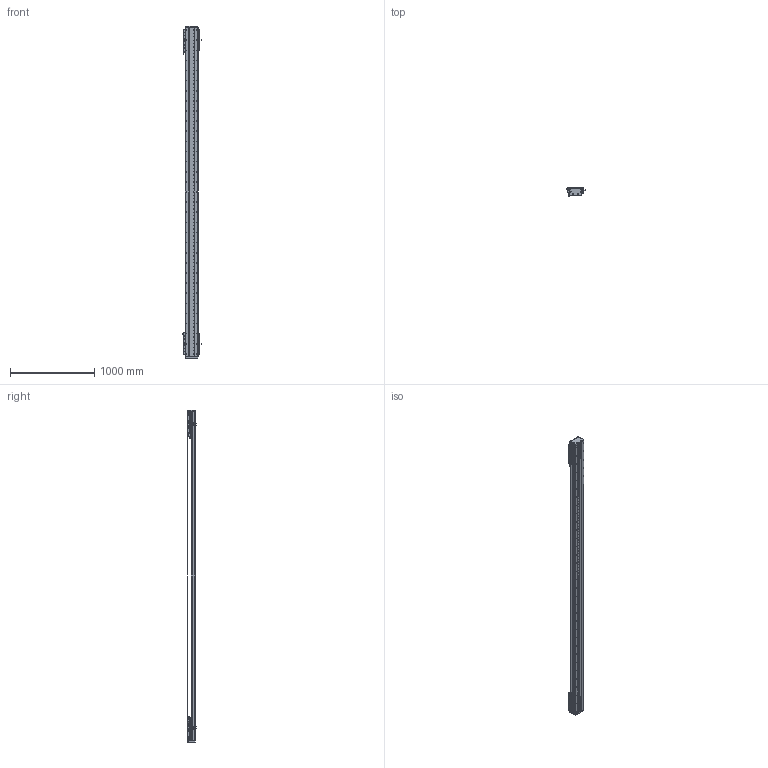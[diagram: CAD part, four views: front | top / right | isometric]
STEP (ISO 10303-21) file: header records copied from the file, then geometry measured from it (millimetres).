
FILE_DESCRIPTION (( 'STEP AP203' ), '1' );
FILE_NAME ('DA-C145-2-C3-T3320-C010-0.2 眻盄萇儂.STEP', '2025-08-14T00:41:13', ( '' ), ( '' ), 'SwSTEP 2.0', 'SolidWorks 2019', '' );
FILE_SCHEMA (( 'CONFIG_CONTROL_DESIGN' ));
Length unit declared in the file: millimetre
Products named in the file (38): 复件 DA146 钢带拉块^复件 CU145 钢带组件_DA-C145-2-C3-T-C010-0.2; DKW-GYP-ZJ-00 笢潔嫖萇覜茼え; 葩璃 XD-U-02L 棠掑喜^DA-C145-2-C3-T-C010-0.2; 葩璃 DA95-GT-T-00^IU-CU145-L 菁釱絳寢; DA-C145-2-C3-T3320-C010-0.2 眻盄萇儂; CU145-W-00 珨极趙賑雄怢啣; 复件 内六角平端紧定螺钉 GB.T77-2000 M5×10^CU145-W 滚珠滑台; 葩璃 DA145-C3-DP-A-00 菜えA^CU145-W 幗紩賑怢; 复件 DA145-DG 钢带端盖^复件 CU145 钢带组件_DA-C145-2-C3-T-C010-0.2; 复件 DA95-DB-00  挡板^CU145-W 滚珠滑台; 葩璃 CKMA01-W060-TRL^DA-C145-2-C3-T-C010-0.2; 复件 DA145-C3-YB-B-00 压板B^CU145-W 滚珠滑台; 葩璃 DA145-C3-DP-B-00 菜えB^CU145-W 幗紩賑怢; TAY01-M8; CU145-W 幗紩賑怢-1; 葩璃 CU145 詩湍郪璃^DA-C145-2-C3-T-C010-0.2; 葩璃 PM-T45^DA-C145-2-C3-T-C010-0.2; 复件 DA146 钢带垫块^复件 CU145 钢带组件_DA-C145-2-C3-T-C010-0.2; CU145-W-00 珨极趙賑雄怢啣-1; 复件 DA95-HK-GT-00 滑块钢轨^CU145-W-00 一体化滑动台板; IU-CU145-L-00 菁釱(L3900); 葩璃 DA95-HXJ-00 遣喳砎蝶^DA-C145-2-C3-T-C010-0.2; 葩璃 鞠褒情蹟譫 M3^DA-C145-2-C3-T-C010-0.2; 复件 DA145 钢带^复件 CU145 钢带组件_DA-C145-2-C3-T-C010-0.2; CU145-W 幗紩賑怢; 复件 半圆头内六角螺钉 M3×6^CU145-W 滚珠滑台; IU-CU145-L 菁釱絳寢; 葩璃 PM-Y65^DA-C145-2-C3-T-C010-0.2; 复件 纯铜油杯 6x6mm^CU145-W 滚珠滑台; 复件 DA145-C3-DK-00 挡块^CU145-W 滚珠滑台; 葩璃 DMA-010-0.2 黍杅芛^DA-C145-2-C3-T-C010-0.2; 复件 DA145-GYP-00 光电感应片^DA-C145-2-C3-T-C010-0.2; DKW168-HXJ-ZJ-00 笢潔滅袉砎蝶; 复件 DA95-MFP-01 密封片^CU145-W 滚珠滑台; 葩璃 CKM03-W060-C1C2-TP-0.2^DA-C145-2-C3-T-C010-0.2; DKW-KGZ-ZJ-00 中间光电开关支架; 66245-CU145-HT-W-00 賑雄怢啣(3D芞祧)(00); 复件 DA145-C3-YB-A-00 压板A^CU145-W 滚珠滑台
Assembly tree (180 placements, depth 4):
  DA-C145-2-C3-T3320-C010-0.2 眻盄萇儂
    IU-CU145-L 菁釱絳寢
      IU-CU145-L-00 菁釱(L3900)
      葩璃 DA95-GT-T-00^IU-CU145-L 菁釱絳寢  x4
    葩璃 CU145 詩湍郪璃^DA-C145-2-C3-T-C010-0.2
      复件 DA145-DG 钢带端盖^复件 CU145 钢带组件_DA-C145-2-C3-T-C010-0.2  x2
      复件 DA146 钢带拉块^复件 CU145 钢带组件_DA-C145-2-C3-T-C010-0.2  x2
      复件 DA146 钢带垫块^复件 CU145 钢带组件_DA-C145-2-C3-T-C010-0.2  x2
      复件 DA145 钢带^复件 CU145 钢带组件_DA-C145-2-C3-T-C010-0.2
    CU145-W 幗紩賑怢
      CU145-W-00 珨极趙賑雄怢啣
        66245-CU145-HT-W-00 賑雄怢啣(3D芞祧)(00)
        复件 DA95-HK-GT-00 滑块钢轨^CU145-W-00 一体化滑动台板  x8
      复件 DA95-MFP-01 密封片^CU145-W 滚珠滑台  x8
      复件 DA95-DB-00  挡板^CU145-W 滚珠滑台  x8
      复件 内六角平端紧定螺钉 GB.T77-2000 M5×10^CU145-W 滚珠滑台  x4
      复件 纯铜油杯 6x6mm^CU145-W 滚珠滑台  x4
      复件 半圆头内六角螺钉 M3×6^CU145-W 滚珠滑台  x16
      复件 DA145-C3-DK-00 挡块^CU145-W 滚珠滑台  x4
      葩璃 DA145-C3-DP-B-00 菜えB^CU145-W 幗紩賑怢  x2
      复件 DA145-C3-YB-B-00 压板B^CU145-W 滚珠滑台  x2
      葩璃 DA145-C3-DP-A-00 菜えA^CU145-W 幗紩賑怢  x3
      复件 DA145-C3-YB-A-00 压板A^CU145-W 滚珠滑台  x3
      TAY01-M8  x4
    CU145-W 幗紩賑怢-1
      CU145-W-00 珨极趙賑雄怢啣-1
        66245-CU145-HT-W-00 賑雄怢啣(3D芞祧)(00)
        复件 DA95-HK-GT-00 滑块钢轨^CU145-W-00 一体化滑动台板  x8
      复件 DA95-MFP-01 密封片^CU145-W 滚珠滑台  x8
      复件 DA95-DB-00  挡板^CU145-W 滚珠滑台  x8
      复件 内六角平端紧定螺钉 GB.T77-2000 M5×10^CU145-W 滚珠滑台  x4
      复件 纯铜油杯 6x6mm^CU145-W 滚珠滑台  x4
      复件 半圆头内六角螺钉 M3×6^CU145-W 滚珠滑台  x16
      复件 DA145-C3-DK-00 挡块^CU145-W 滚珠滑台  x4
      葩璃 DA145-C3-DP-B-00 菜えB^CU145-W 幗紩賑怢  x2
      复件 DA145-C3-YB-B-00 压板B^CU145-W 滚珠滑台  x2
      葩璃 DA145-C3-DP-A-00 菜えA^CU145-W 幗紩賑怢  x3
      复件 DA145-C3-YB-A-00 压板A^CU145-W 滚珠滑台  x3
      TAY01-M8  x4
    葩璃 CKMA01-W060-TRL^DA-C145-2-C3-T-C010-0.2
    葩璃 PM-T45^DA-C145-2-C3-T-C010-0.2  x4
    葩璃 XD-U-02L 棠掑喜^DA-C145-2-C3-T-C010-0.2
    葩璃 DA95-HXJ-00 遣喳砎蝶^DA-C145-2-C3-T-C010-0.2  x4
    葩璃 CKM03-W060-C1C2-TP-0.2^DA-C145-2-C3-T-C010-0.2  x2
    葩璃 DMA-010-0.2 黍杅芛^DA-C145-2-C3-T-C010-0.2  x2
    复件 DA145-GYP-00 光电感应片^DA-C145-2-C3-T-C010-0.2  x2
    DKW-GYP-ZJ-00 笢潔嫖萇覜茼え
    DKW-KGZ-ZJ-00 中间光电开关支架
    葩璃 PM-Y65^DA-C145-2-C3-T-C010-0.2
    葩璃 鞠褒情蹟譫 M3^DA-C145-2-C3-T-C010-0.2  x8
    DKW168-HXJ-ZJ-00 笢潔滅袉砎蝶
Bounding box: 213.7 x 108.45 x 3936 mm (x, y, z)
Volume: 19329293.6 mm3; surface area: 6358649.2 mm2
Topology: 175 solids, 239 shells, 8090 faces, 22683 edges, 14141 vertices
Faces by surface type: cylinder 3777, plane 2973, cone 1184, torus 140, sphere 8, bspline 8
Entity records: 172298 total; most frequent: CARTESIAN_POINT 53744, ORIENTED_EDGE 24052, DIRECTION 22131, EDGE_CURVE 12026, AXIS2_PLACEMENT_3D 8195, VERTEX_POINT 7840, VECTOR 5741, LINE 5741
